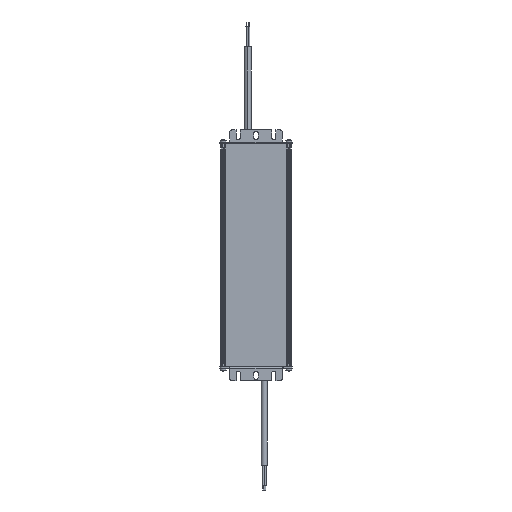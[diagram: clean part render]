
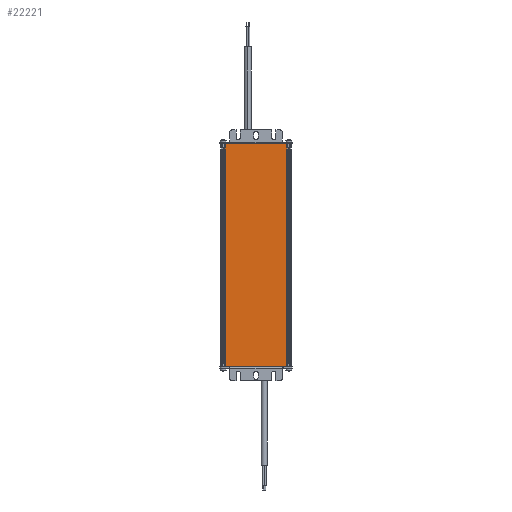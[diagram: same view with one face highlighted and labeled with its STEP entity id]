
A CAD part, front view. The second image highlights one B-rep face of the part: STEP entity #22221.
In plain terms, the highlighted planar face has unit normal (0, -1, 0).
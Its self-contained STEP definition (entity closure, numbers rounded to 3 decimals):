
#898 = DIRECTION ( 'NONE',  ( 0., 0., 1. ) ) ;
#1122 = EDGE_LOOP ( 'NONE', ( #11363, #9378, #21913, #1123 ) ) ;
#1123 = ORIENTED_EDGE ( 'NONE', *, *, #18225, .F. ) ;
#3075 = VECTOR ( 'NONE', #898, 1000. ) ;
#5005 = DIRECTION ( 'NONE',  ( 0., 0., -1. ) ) ;
#5423 = PLANE ( 'NONE',  #26578 ) ;
#6566 = VERTEX_POINT ( 'NONE', #20186 ) ;
#6926 = LINE ( 'NONE', #13560, #18964 ) ;
#7816 = DIRECTION ( 'NONE',  ( 0., 0., 1. ) ) ;
#8515 = CARTESIAN_POINT ( 'NONE',  ( 29.766, -20.5, -107.5 ) ) ;
#9259 = VECTOR ( 'NONE', #5005, 1000. ) ;
#9378 = ORIENTED_EDGE ( 'NONE', *, *, #17799, .T. ) ;
#9456 = LINE ( 'NONE', #10422, #3075 ) ;
#10409 = VERTEX_POINT ( 'NONE', #10641 ) ;
#10422 = CARTESIAN_POINT ( 'NONE',  ( 29.766, -20.5, 125. ) ) ;
#10641 = CARTESIAN_POINT ( 'NONE',  ( 29.766, -20.5, 107.5 ) ) ;
#11363 = ORIENTED_EDGE ( 'NONE', *, *, #31115, .T. ) ;
#13560 = CARTESIAN_POINT ( 'NONE',  ( -34., -20.5, -107.5 ) ) ;
#15560 = VECTOR ( 'NONE', #30726, 1000. ) ;
#15955 = DIRECTION ( 'NONE',  ( -1., 0., 0. ) ) ;
#16115 = FACE_OUTER_BOUND ( 'NONE', #1122, .T. ) ;
#16331 = LINE ( 'NONE', #28358, #15560 ) ;
#17799 = EDGE_CURVE ( 'NONE', #10409, #6566, #16331, .T. ) ;
#18225 = EDGE_CURVE ( 'NONE', #22933, #30546, #6926, .T. ) ;
#18964 = VECTOR ( 'NONE', #15955, 1000. ) ;
#20186 = CARTESIAN_POINT ( 'NONE',  ( -29.766, -20.5, 107.5 ) ) ;
#21913 = ORIENTED_EDGE ( 'NONE', *, *, #23889, .T. ) ;
#22221 = ADVANCED_FACE ( 'NONE', ( #16115 ), #5423, .F. ) ;
#22222 = DIRECTION ( 'NONE',  ( 0., 1., 0. ) ) ;
#22933 = VERTEX_POINT ( 'NONE', #8515 ) ;
#23889 = EDGE_CURVE ( 'NONE', #6566, #30546, #28477, .T. ) ;
#24230 = CARTESIAN_POINT ( 'NONE',  ( -29.766, -20.5, -125. ) ) ;
#26530 = CARTESIAN_POINT ( 'NONE',  ( -29.766, -20.5, -107.5 ) ) ;
#26578 = AXIS2_PLACEMENT_3D ( 'NONE', #29398, #22222, #7816 ) ;
#28358 = CARTESIAN_POINT ( 'NONE',  ( -34., -20.5, 107.5 ) ) ;
#28477 = LINE ( 'NONE', #24230, #9259 ) ;
#29398 = CARTESIAN_POINT ( 'NONE',  ( -34., -20.5, 125. ) ) ;
#30546 = VERTEX_POINT ( 'NONE', #26530 ) ;
#30726 = DIRECTION ( 'NONE',  ( -1., 0., 0. ) ) ;
#31115 = EDGE_CURVE ( 'NONE', #22933, #10409, #9456, .T. ) ;
